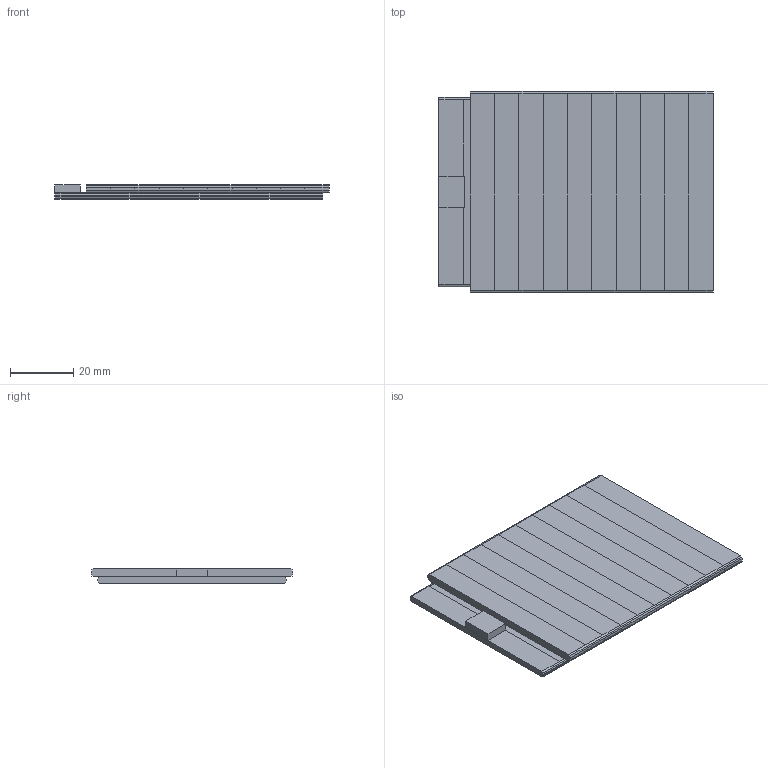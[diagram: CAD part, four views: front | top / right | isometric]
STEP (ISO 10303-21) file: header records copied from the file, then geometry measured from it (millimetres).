
FILE_DESCRIPTION(('AVO Performance Horse - montaje de la cincha (B-rep poliedrico)'),'2;1');
FILE_NAME('Electrodo','2026-11-15T12:00:00',('AVO Performance Horse'),('AVO Performance Horse'),'avo_cad.py','avo_cad.py (numpy)','');
FILE_SCHEMA(('AUTOMOTIVE_DESIGN { 1 0 10303 214 1 1 1 1 }'));
Length unit declared in the file: millimetre
Products named in the file (1): Electrodo
Bounding box: 87 x 64 x 4.5 mm (x, y, z)
Volume: 22598.7 mm3; surface area: 21344.7 mm2
Topology: 3 solids, 3 shells, 262 faces, 540 edges, 284 vertices
Faces by surface type: plane 262
Entity records: 4669 total; most frequent: ORIENTED_EDGE 1080, VECTOR 540, LINE 540, EDGE_CURVE 540, CARTESIAN_POINT 285, VERTEX_POINT 284, AXIS2_PLACEMENT_3D 263, EDGE_LOOP 262
